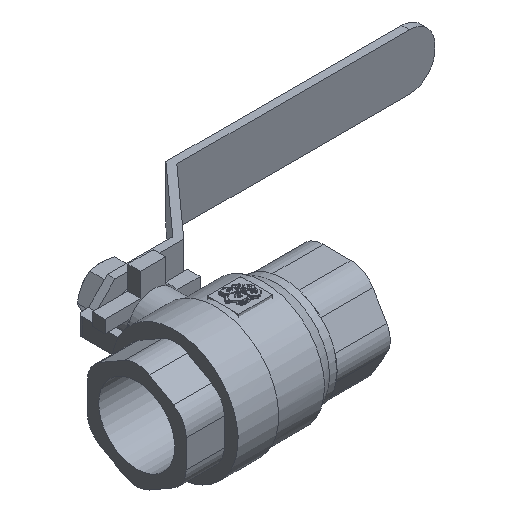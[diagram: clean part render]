
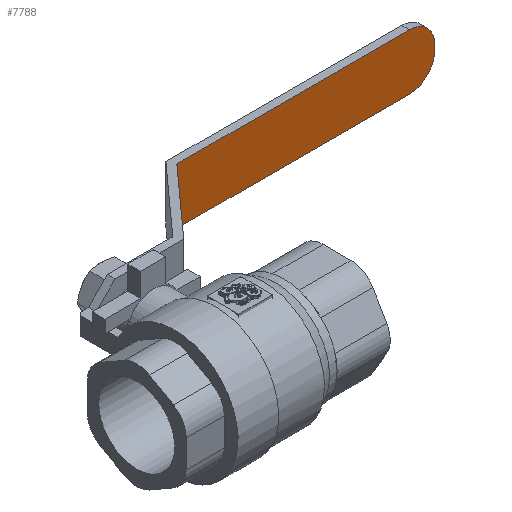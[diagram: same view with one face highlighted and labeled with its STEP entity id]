
A CAD part, isometric view. The second image highlights one B-rep face of the part: STEP entity #7788.
In plain terms, the highlighted planar face has unit normal (0, -1, 0).
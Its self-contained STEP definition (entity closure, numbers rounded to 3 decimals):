
#7788=ADVANCED_FACE('',(#14369),#14371,.T.);
#14369=FACE_BOUND('',#14370,.T.);
#14370=EDGE_LOOP('',(#19857,#19858,#19859,#19860,#19861,#19862));
#14371=PLANE('',#14372);
#14372=AXIS2_PLACEMENT_3D('',#14373,#14374,#14375);
#14373=CARTESIAN_POINT('',(8581.16,1294.762,1560.749));
#14374=DIRECTION('',(0.,-1.,0.));
#14375=DIRECTION('',(1.,0.,0.));
#19857=ORIENTED_EDGE('',*,*,#22693,.F.);
#19858=ORIENTED_EDGE('',*,*,#22699,.T.);
#19859=ORIENTED_EDGE('',*,*,#22705,.F.);
#19860=ORIENTED_EDGE('',*,*,#22707,.F.);
#19861=ORIENTED_EDGE('',*,*,#22710,.F.);
#19862=ORIENTED_EDGE('',*,*,#22711,.F.);
#22693=EDGE_CURVE('',#27020,#27021,#27022,.T.);
#22699=EDGE_CURVE('',#27020,#27030,#27032,.T.);
#22705=EDGE_CURVE('',#27040,#27030,#27042,.T.);
#22707=EDGE_CURVE('',#27043,#27040,#27045,.T.);
#22710=EDGE_CURVE('',#27048,#27043,#27049,.T.);
#22711=EDGE_CURVE('',#27021,#27048,#27050,.T.);
#27020=VERTEX_POINT('',#36451);
#27021=VERTEX_POINT('',#36452);
#27022=CIRCLE('',#36453,10.);
#27030=VERTEX_POINT('',#36473);
#27032=LINE('',#36477,#36478);
#27040=VERTEX_POINT('',#36496);
#27042=CIRCLE('',#36500,10.);
#27043=VERTEX_POINT('',#36504);
#27045=LINE('',#36508,#36509);
#27048=VERTEX_POINT('',#36517);
#27049=LINE('',#36518,#36519);
#27050=LINE('',#36521,#36522);
#36451=CARTESIAN_POINT('',(8682.824,1294.762,1570.749));
#36452=CARTESIAN_POINT('',(8672.824,1294.762,1560.749));
#36453=AXIS2_PLACEMENT_3D('',#36454,#36455,#36456);
#36454=CARTESIAN_POINT('',(8672.824,1294.762,1570.749));
#36455=DIRECTION('',(0.,1.,0.));
#36456=DIRECTION('',(1.,0.,0.));
#36473=CARTESIAN_POINT('',(8682.824,1294.762,1572.749));
#36477=CARTESIAN_POINT('',(8682.824,1294.762,1570.749));
#36478=VECTOR('',#36479,1.);
#36479=DIRECTION('',(0.,0.,1.));
#36496=CARTESIAN_POINT('',(8672.824,1294.762,1582.749));
#36500=AXIS2_PLACEMENT_3D('',#36501,#36502,#36503);
#36501=CARTESIAN_POINT('',(8672.824,1294.762,1572.749));
#36502=DIRECTION('',(0.,1.,0.));
#36503=DIRECTION('',(0.,0.,1.));
#36504=CARTESIAN_POINT('',(8581.16,1294.762,1582.749));
#36508=CARTESIAN_POINT('',(8581.16,1294.762,1582.749));
#36509=VECTOR('',#36510,1.);
#36510=DIRECTION('',(1.,0.,0.));
#36517=CARTESIAN_POINT('',(8581.16,1294.762,1560.749));
#36518=CARTESIAN_POINT('',(8581.16,1294.762,1560.749));
#36519=VECTOR('',#36520,1.);
#36520=DIRECTION('',(0.,0.,1.));
#36521=CARTESIAN_POINT('',(8672.824,1294.762,1560.749));
#36522=VECTOR('',#36523,1.);
#36523=DIRECTION('',(-1.,0.,0.));
